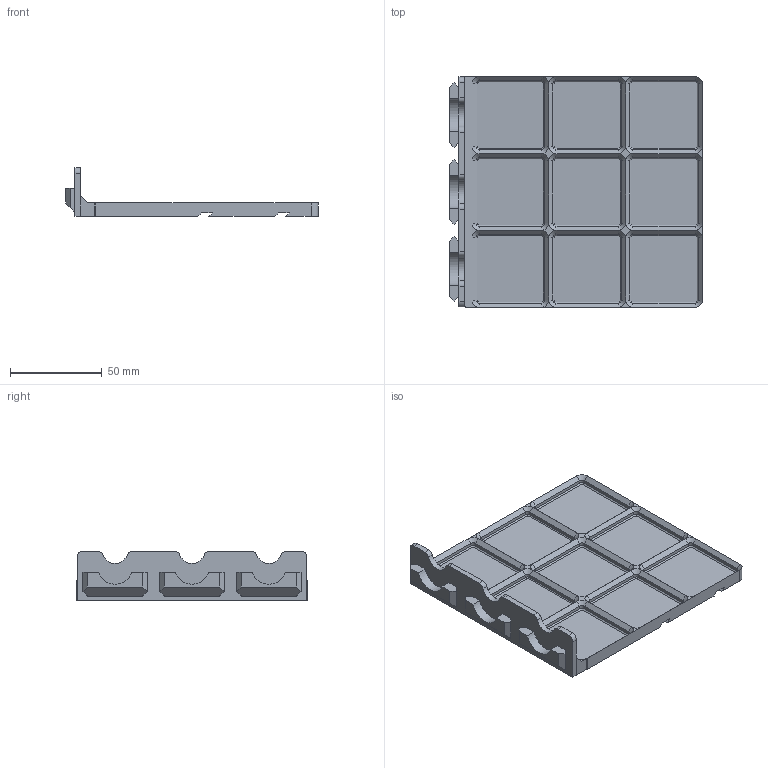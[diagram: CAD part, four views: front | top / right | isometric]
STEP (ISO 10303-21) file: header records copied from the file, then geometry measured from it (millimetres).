
FILE_DESCRIPTION(/* description */ ('','CAx-IF Rec.Pracs.---Representation and Presentation of Product Manufacturing Information (PMI)---4.0---2014-10-13'),/* implementation_level */ '2;1');
FILE_NAME(/* name */ 'Goews Triple Hanger Gridfinity 3x3 Base.step',/* time_stamp */ '2024-12-14T22:41:58-05:00',/* author */ (''),/* organization */ (''),/* preprocessor_version */ 'ST-DEVELOPER v20',/* originating_system */ 'Autodesk Translation Framework v13.20.0.188',/* authorisation */ '');
FILE_SCHEMA (('AP242_MANAGED_MODEL_BASED_3D_ENGINEERING_MIM_LF { 1 0 10303 442 1 1 4 }'));
Length unit declared in the file: millimetre
Products named in the file (1): Goews Triple Hanger Gridfinity 3x3 Base
Bounding box: 138.15 x 126 x 26.72 mm (x, y, z)
Volume: 70419.2 mm3; surface area: 48289.7 mm2
Topology: 1 solids, 1 shells, 348 faces, 775 edges, 432 vertices
Faces by surface type: plane 190, cylinder 86, cone 72
Entity records: 9330 total; most frequent: DIRECTION 1683, CARTESIAN_POINT 1556, ORIENTED_EDGE 1550, EDGE_CURVE 775, LINE 565, VECTOR 565, AXIS2_PLACEMENT_3D 559, VERTEX_POINT 432
